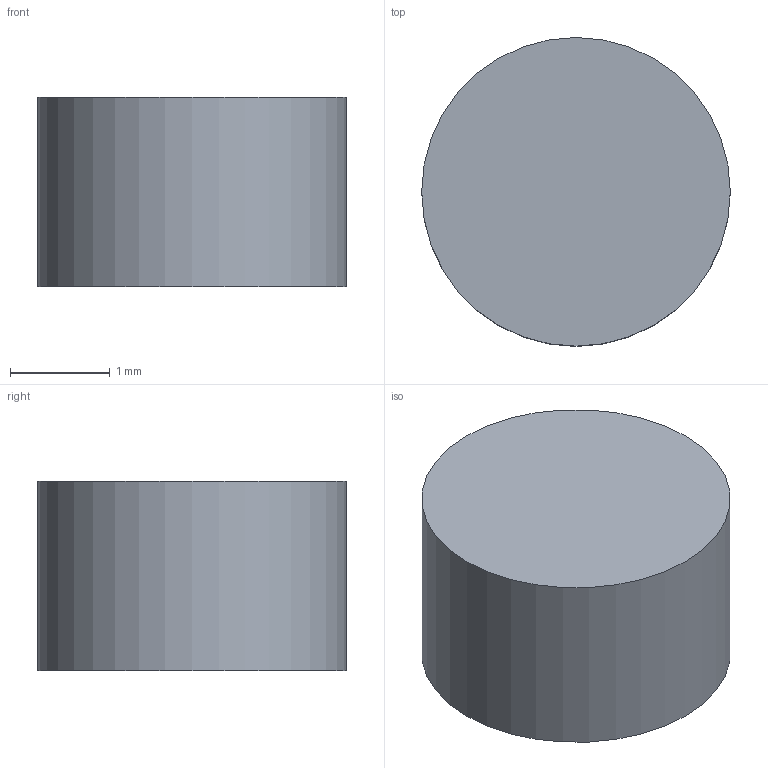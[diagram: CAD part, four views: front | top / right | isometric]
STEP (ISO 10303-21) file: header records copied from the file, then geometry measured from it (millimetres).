
FILE_DESCRIPTION(('Open CASCADE Model'),'2;1');
FILE_NAME('Open CASCADE Shape Model','2026-09-06T11:30:50',('Author'),( 'Open CASCADE'),'Open CASCADE STEP processor 7.7','Open CASCADE 7.7' ,'Unknown');
FILE_SCHEMA(('AUTOMOTIVE_DESIGN { 1 0 10303 214 1 1 1 1 }'));
Length unit declared in the file: millimetre
Products named in the file (1): Open CASCADE STEP translator 7.7 34
Bounding box: 3.1 x 3.1 x 1.9 mm (x, y, z)
Volume: 14.3 mm3; surface area: 33.6 mm2
Topology: 1 solids, 1 shells, 3 faces, 3 edges, 2 vertices
Faces by surface type: plane 2, cylinder 1
Full cylindrical faces by diameter (mm): 3.1 x1
Entity records: 108 total; most frequent: DIRECTION 19, CARTESIAN_POINT 15, AXIS2_PLACEMENT_3D 6, ORIENTED_EDGE 6, PCURVE 6, DEFINITIONAL_REPRESENTATION 6, LINE 5, VECTOR 5
